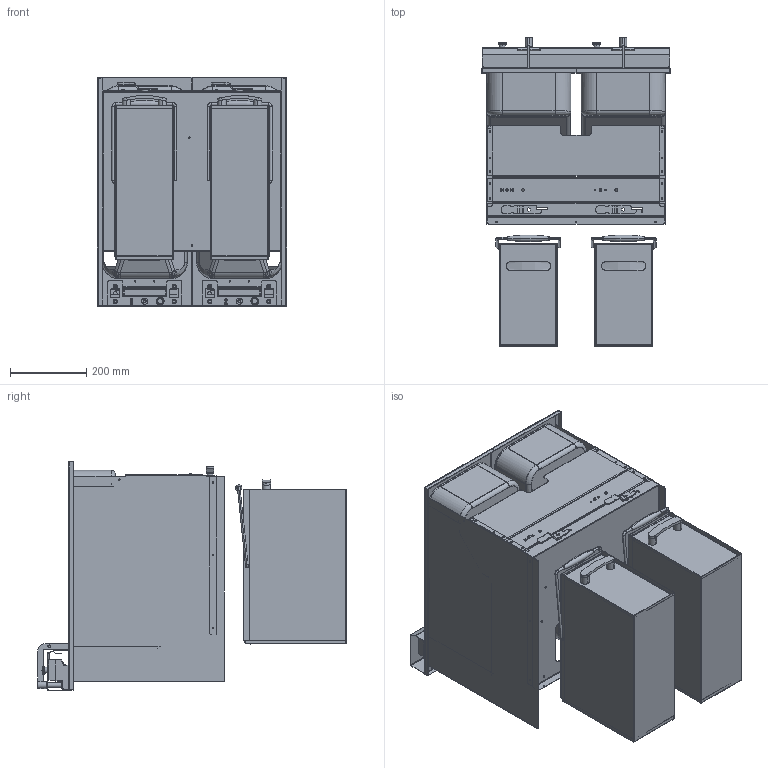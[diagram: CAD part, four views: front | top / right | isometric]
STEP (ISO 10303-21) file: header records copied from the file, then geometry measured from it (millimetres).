
FILE_DESCRIPTION (( 'STEP AP214' ), '1' );
FILE_NAME ('EVO2525-E.STEP', '2020-01-20T09:50:05', ( '' ), ( '' ), 'SwSTEP 2.0', 'SolidWorks 2019', '' );
FILE_SCHEMA (( 'AUTOMOTIVE_DESIGN' ));
Length unit declared in the file: millimetre
Products named in the file (1): EVO2525-E
Bounding box: 496 x 810 x 601.01 mm (x, y, z)
Surface area: 4648490.6 mm2 (no closed solid volume)
Topology: 0 solids, 96 shells, 1008 faces, 4102 edges, 2995 vertices
Faces by surface type: plane 413, cylinder 402, bspline 74, cone 63, torus 56
Entity records: 59198 total; most frequent: CARTESIAN_POINT 15174, DIRECTION 6972, ORIENTED_EDGE 5852, EDGE_CURVE 4092, VERTEX_POINT 2995, AXIS2_PLACEMENT_3D 2456, LINE 2060, VECTOR 2060
